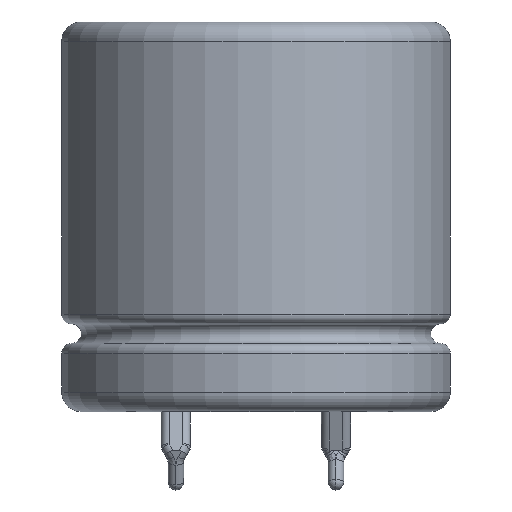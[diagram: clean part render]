
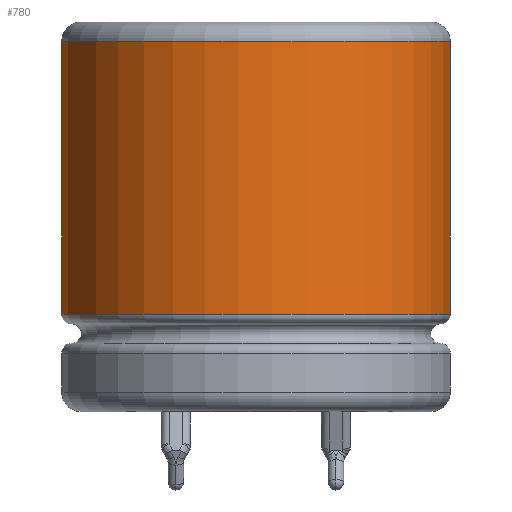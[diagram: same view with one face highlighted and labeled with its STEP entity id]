
A CAD part, left-side view. The second image highlights one B-rep face of the part: STEP entity #780.
In plain terms, the highlighted cylindrical face has radius 10 mm (diameter 20 mm), a partial arc.
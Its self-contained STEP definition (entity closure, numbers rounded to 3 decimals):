
#780=ADVANCED_FACE('',(#1064),#988,.T.);
#988=CYLINDRICAL_SURFACE('',#3980,10.);
#1064=FACE_OUTER_BOUND('',#1259,.T.);
#1259=EDGE_LOOP('',(#1989,#1990,#1991,#1992));
#1481=LINE('',#5546,#1735);
#1482=LINE('',#5550,#1736);
#1735=VECTOR('',#4418,1.);
#1736=VECTOR('',#4421,1.);
#1989=ORIENTED_EDGE('',*,*,#3287,.F.);
#1990=ORIENTED_EDGE('',*,*,#3288,.F.);
#1991=ORIENTED_EDGE('',*,*,#3289,.T.);
#1992=ORIENTED_EDGE('',*,*,#3290,.T.);
#2977=VERTEX_POINT('',#5544);
#2978=VERTEX_POINT('',#5545);
#2979=VERTEX_POINT('',#5547);
#2980=VERTEX_POINT('',#5549);
#3287=EDGE_CURVE('',#2977,#2978,#3781,.T.);
#3288=EDGE_CURVE('',#2979,#2977,#1481,.T.);
#3289=EDGE_CURVE('',#2979,#2980,#3782,.T.);
#3290=EDGE_CURVE('',#2980,#2978,#1482,.T.);
#3781=CIRCLE('',#3978,10.);
#3782=CIRCLE('',#3979,10.);
#3978=AXIS2_PLACEMENT_3D('',#5543,#4416,#4417);
#3979=AXIS2_PLACEMENT_3D('',#5548,#4419,#4420);
#3980=AXIS2_PLACEMENT_3D('',#5551,#4422,#4423);
#4416=DIRECTION('',(0.,0.,-1.));
#4417=DIRECTION('',(-1.,0.,0.));
#4418=DIRECTION('',(0.,0.,-1.));
#4419=DIRECTION('',(0.,0.,-1.));
#4420=DIRECTION('',(-1.,0.,0.));
#4421=DIRECTION('',(0.,0.,-1.));
#4422=DIRECTION('',(0.,0.,-1.));
#4423=DIRECTION('',(-1.,0.,0.));
#5543=CARTESIAN_POINT('',(0.,0.,5.));
#5544=CARTESIAN_POINT('',(4.067,-9.135,5.));
#5545=CARTESIAN_POINT('',(9.135,-4.067,5.));
#5546=CARTESIAN_POINT('',(4.067,-9.135,19.));
#5547=CARTESIAN_POINT('',(4.067,-9.135,19.));
#5548=CARTESIAN_POINT('',(0.,0.,19.));
#5549=CARTESIAN_POINT('',(9.135,-4.067,19.));
#5550=CARTESIAN_POINT('',(9.135,-4.067,19.));
#5551=CARTESIAN_POINT('',(0.,0.,0.));
